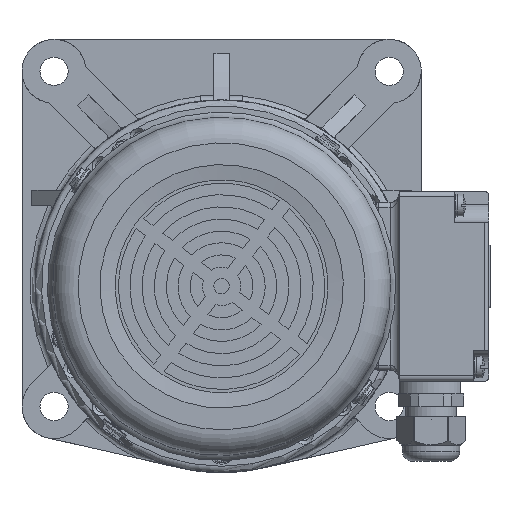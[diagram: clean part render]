
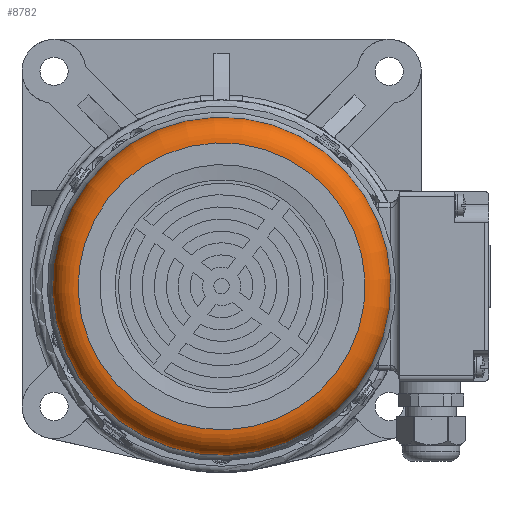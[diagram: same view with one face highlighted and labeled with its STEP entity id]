
A CAD part, left-side view. The second image highlights one B-rep face of the part: STEP entity #8782.
In plain terms, the highlighted toroidal (fillet/blend) face has major radius 56 mm and minor radius 10 mm.
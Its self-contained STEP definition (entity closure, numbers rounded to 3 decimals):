
#869=FACE_BOUND('',#13790,.T.);
#870=FACE_BOUND('',#13791,.T.);
#1425=TOROIDAL_SURFACE('',#37063,56.,10.);
#8782=ADVANCED_FACE('',(#869,#870),#1425,.T.);
#13790=EDGE_LOOP('',(#21319));
#13791=EDGE_LOOP('',(#21320));
#21319=ORIENTED_EDGE('',*,*,#31232,.T.);
#21320=ORIENTED_EDGE('',*,*,#29769,.F.);
#25777=VERTEX_POINT('',#53902);
#26744=VERTEX_POINT('',#60035);
#29769=EDGE_CURVE('',#25777,#25777,#33390,.T.);
#31232=EDGE_CURVE('',#26744,#26744,#33933,.T.);
#33390=CIRCLE('',#36063,56.);
#33933=CIRCLE('',#37062,66.);
#36063=AXIS2_PLACEMENT_3D('',#53901,#42470,#42471);
#37062=AXIS2_PLACEMENT_3D('',#60034,#45184,#45185);
#37063=AXIS2_PLACEMENT_3D('',#60036,#45186,#45187);
#42470=DIRECTION('',(-1.,0.,0.));
#42471=DIRECTION('',(0.,-0.609,0.793));
#45184=DIRECTION('',(-1.,0.,0.));
#45185=DIRECTION('',(0.,-0.609,0.793));
#45186=DIRECTION('',(-1.,0.,0.));
#45187=DIRECTION('',(0.,-0.609,0.793));
#53901=CARTESIAN_POINT('',(-262.386,136.323,48.371));
#53902=CARTESIAN_POINT('',(-262.386,102.232,92.798));
#60034=CARTESIAN_POINT('',(-252.386,136.323,48.371));
#60035=CARTESIAN_POINT('',(-252.386,96.144,100.732));
#60036=CARTESIAN_POINT('',(-252.386,136.323,48.371));
